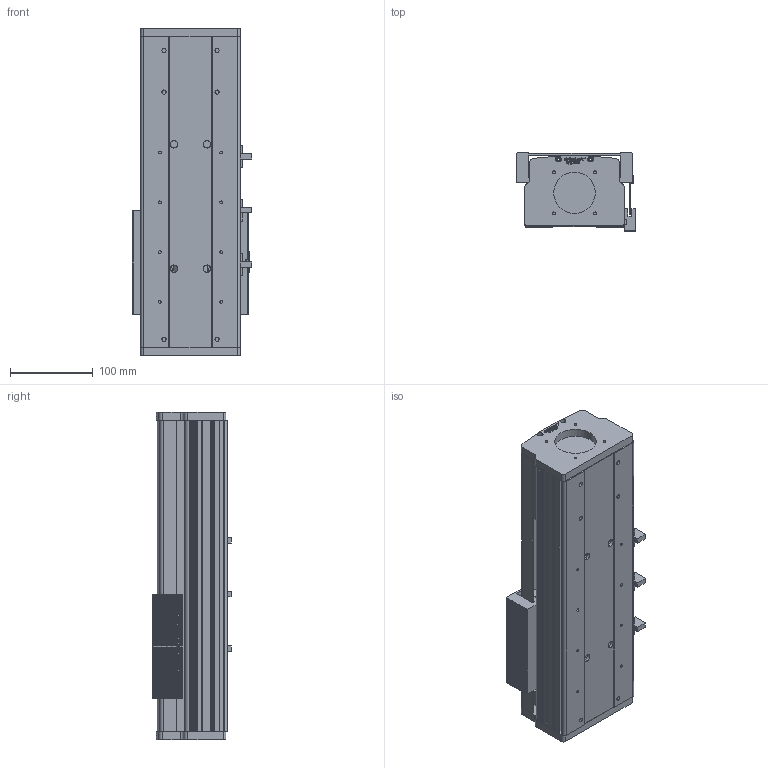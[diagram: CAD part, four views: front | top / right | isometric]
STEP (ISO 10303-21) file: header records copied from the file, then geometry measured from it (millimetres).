
FILE_DESCRIPTION (( 'STEP AP214' ), '1' );
FILE_NAME ('CF120B-C-100-FW.STEP', '2020-07-15T01:52:57', ( '微软用户' ), ( '微软中国' ), 'SwSTEP 2.0', 'SolidWorks 2016', '' );
FILE_SCHEMA (( 'AUTOMOTIVE_DESIGN' ));
Length unit declared in the file: millimetre
Products named in the file (12): CF120B裔啣-100; CF120-2-2賑雄啣; CF120-2-1賑雄輸; EGR15絳寢-100; EGH-15-CABZnew; CF120B臏倰第-100; CF120B-C-100-FW; 嫖萇羲壽; 75-86-95癹弇羲壽覜茼え; 120B珨极嘐隅釱; CF120-2耜啣; CF120-2盓厥釱
Assembly tree (17 placements, depth 2):
  CF120B-C-100-FW
    CF120B臏倰第-100
    EGH-15-CABZnew  x4
    EGR15絳寢-100  x2
    CF120-2-1賑雄輸
    CF120-2-2賑雄啣
    CF120B裔啣-100
    CF120-2盓厥釱
    CF120-2耜啣
    120B珨极嘐隅釱
    75-86-95癹弇羲壽覜茼え
    嫖萇羲壽  x3
Bounding box: 143.6 x 94.1 x 395 mm (x, y, z)
Volume: 2327416.4 mm3; surface area: 753525.8 mm2
Topology: 13 solids, 65 shells, 7369 faces, 27803 edges, 19134 vertices
Faces by surface type: plane 3625, bspline 2474, cylinder 914, cone 132, torus 128, sphere 96
Entity records: 140459 total; most frequent: CARTESIAN_POINT 50628, ORIENTED_EDGE 15862, DIRECTION 11946, EDGE_CURVE 9055, VERTEX_POINT 6196, LINE 5370, VECTOR 5370, AXIS2_PLACEMENT_3D 3288
